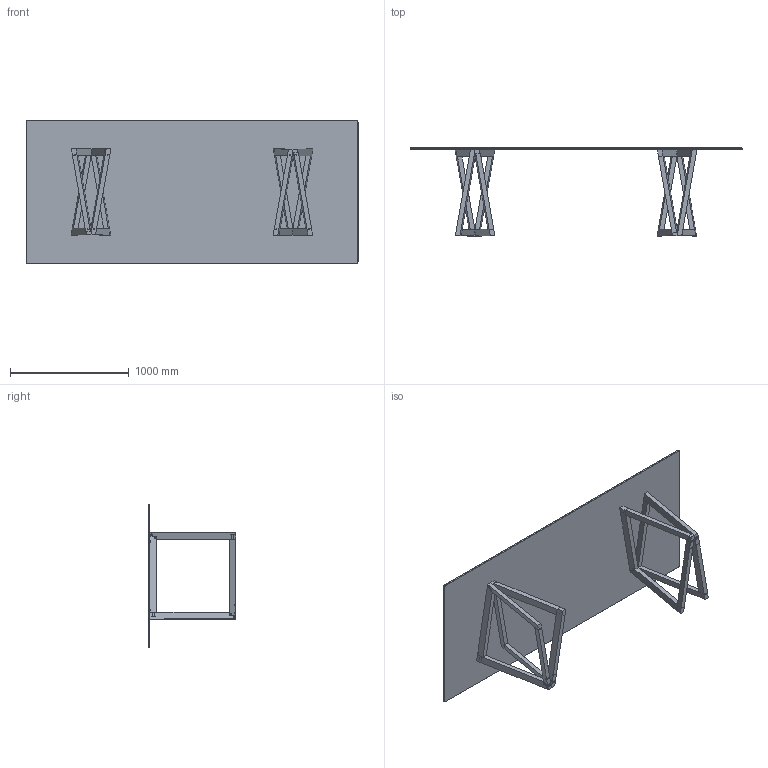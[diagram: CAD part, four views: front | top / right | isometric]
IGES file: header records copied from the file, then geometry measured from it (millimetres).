
Start section: SolidWorks IGES file using analytic representation for surfaces
Global section: file name: C:\Users\Matteo\Desktop\_Horm\Dror\_file tecnici per listino\QuaDror 02\280x120 quadror rettangolare.IGS; native system: SolidWorks 2010; preprocessor: SolidWorks 2010; author: Matteo; date: 151117.120323; units: millimetre
Bounding box: 2800 x 741.03 x 1200 mm (x, y, z)
Surface area: 9070574.3 mm2 (no closed solid volume)
Topology: 0 solids, 0 shells, 382 faces, 7160 edges, 7160 vertices
Faces by surface type: bspline 270, revolution 112
